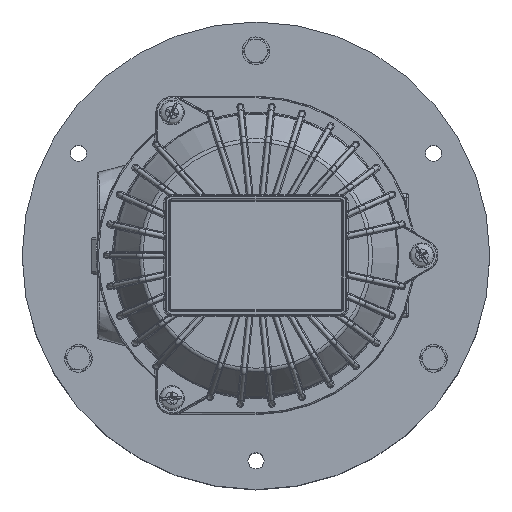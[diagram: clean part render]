
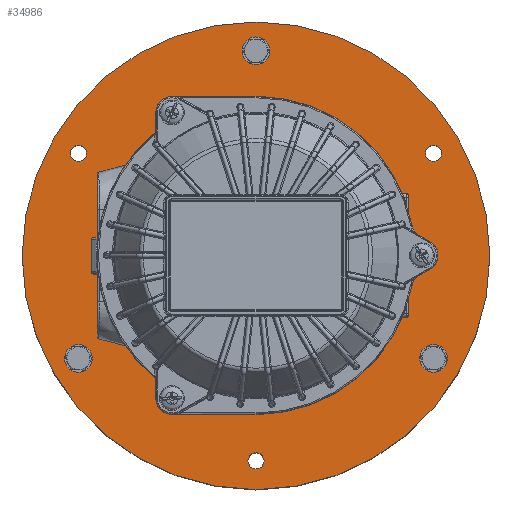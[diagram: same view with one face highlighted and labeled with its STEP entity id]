
A CAD part, top view. The second image highlights one B-rep face of the part: STEP entity #34986.
In plain terms, the highlighted planar face has unit normal (0, 0, 1).
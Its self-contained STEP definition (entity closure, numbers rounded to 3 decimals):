
#2782=FACE_BOUND('',#8609,.T.);
#2783=FACE_BOUND('',#8610,.T.);
#2784=FACE_BOUND('',#8611,.T.);
#2785=FACE_BOUND('',#8612,.T.);
#2786=FACE_BOUND('',#8613,.T.);
#2787=FACE_BOUND('',#8614,.T.);
#2788=FACE_BOUND('',#8615,.T.);
#5265=PLANE('',#37413);
#6304=FACE_OUTER_BOUND('',#8608,.T.);
#8608=EDGE_LOOP('',(#24735));
#8609=EDGE_LOOP('',(#24736));
#8610=EDGE_LOOP('',(#24737));
#8611=EDGE_LOOP('',(#24738));
#8612=EDGE_LOOP('',(#24739));
#8613=EDGE_LOOP('',(#24740));
#8614=EDGE_LOOP('',(#24741));
#8615=EDGE_LOOP('',(#24742));
#13540=CIRCLE('',#37167,6.);
#13568=CIRCLE('',#37246,6.);
#13579=CIRCLE('',#37276,6.);
#13635=CIRCLE('',#37414,101.5);
#13636=CIRCLE('',#37415,3.5);
#13637=CIRCLE('',#37416,3.5);
#13638=CIRCLE('',#37417,3.5);
#13639=CIRCLE('',#37418,31.463);
#15648=VERTEX_POINT('',#50174);
#15708=VERTEX_POINT('',#50499);
#15727=VERTEX_POINT('',#50635);
#15864=VERTEX_POINT('',#51846);
#15865=VERTEX_POINT('',#51848);
#15866=VERTEX_POINT('',#51850);
#15867=VERTEX_POINT('',#51852);
#15868=VERTEX_POINT('',#51854);
#18750=EDGE_CURVE('',#15648,#15648,#13540,.T.);
#18850=EDGE_CURVE('',#15708,#15708,#13568,.T.);
#18882=EDGE_CURVE('',#15727,#15727,#13579,.T.);
#19087=EDGE_CURVE('',#15864,#15864,#13635,.T.);
#19088=EDGE_CURVE('',#15865,#15865,#13636,.T.);
#19089=EDGE_CURVE('',#15866,#15866,#13637,.T.);
#19090=EDGE_CURVE('',#15867,#15867,#13638,.T.);
#19091=EDGE_CURVE('',#15868,#15868,#13639,.T.);
#24735=ORIENTED_EDGE('',*,*,#19087,.F.);
#24736=ORIENTED_EDGE('',*,*,#18750,.T.);
#24737=ORIENTED_EDGE('',*,*,#18850,.T.);
#24738=ORIENTED_EDGE('',*,*,#18882,.T.);
#24739=ORIENTED_EDGE('',*,*,#19088,.T.);
#24740=ORIENTED_EDGE('',*,*,#19089,.T.);
#24741=ORIENTED_EDGE('',*,*,#19090,.T.);
#24742=ORIENTED_EDGE('',*,*,#19091,.F.);
#34986=ADVANCED_FACE('',(#6304,#2782,#2783,#2784,#2785,#2786,#2787,#2788),
#5265,.F.);
#37167=AXIS2_PLACEMENT_3D('',#50175,#41089,#41090);
#37246=AXIS2_PLACEMENT_3D('',#50500,#41287,#41288);
#37276=AXIS2_PLACEMENT_3D('',#50636,#41360,#41361);
#37413=AXIS2_PLACEMENT_3D('',#51845,#41710,#41711);
#37414=AXIS2_PLACEMENT_3D('',#51847,#41712,#41713);
#37415=AXIS2_PLACEMENT_3D('',#51849,#41714,#41715);
#37416=AXIS2_PLACEMENT_3D('',#51851,#41716,#41717);
#37417=AXIS2_PLACEMENT_3D('',#51853,#41718,#41719);
#37418=AXIS2_PLACEMENT_3D('',#51855,#41720,#41721);
#41089=DIRECTION('center_axis',(0.,0.,
-1.));
#41090=DIRECTION('ref_axis',(-0.741,-0.672,0.));
#41287=DIRECTION('center_axis',(0.,0.,
-1.));
#41288=DIRECTION('ref_axis',(-0.211,0.977,0.));
#41360=DIRECTION('center_axis',(0.,0.,
-1.));
#41361=DIRECTION('ref_axis',(0.952,-0.306,0.));
#41710=DIRECTION('center_axis',(0.,0.,
-1.));
#41711=DIRECTION('ref_axis',(-1.,0.,0.));
#41712=DIRECTION('center_axis',(0.,0.,
-1.));
#41713=DIRECTION('ref_axis',(-1.,0.,0.));
#41714=DIRECTION('center_axis',(0.,0.,
-1.));
#41715=DIRECTION('ref_axis',(1.,0.,0.));
#41716=DIRECTION('center_axis',(0.,0.,
-1.));
#41717=DIRECTION('ref_axis',(1.,0.,0.));
#41718=DIRECTION('center_axis',(0.,0.,
-1.));
#41719=DIRECTION('ref_axis',(1.,0.,0.));
#41720=DIRECTION('center_axis',(0.,0.,
1.));
#41721=DIRECTION('ref_axis',(1.,0.,0.));
#50174=CARTESIAN_POINT('',(81.521,-40.47,-104.65));
#50175=CARTESIAN_POINT('Origin',(77.076,-44.5,-104.65));
#50499=CARTESIAN_POINT('',(-75.809,-50.365,-104.65));
#50500=CARTESIAN_POINT('Origin',(-77.076,-44.5,-104.65));
#50635=CARTESIAN_POINT('',(-5.713,90.834,-104.65));
#50636=CARTESIAN_POINT('Origin',(0.,89.,
-104.65));
#51845=CARTESIAN_POINT('Origin',(0.,0.,-104.65));
#51846=CARTESIAN_POINT('',(101.5,0.,-104.65));
#51847=CARTESIAN_POINT('Origin',(0.,0.,-104.65));
#51848=CARTESIAN_POINT('',(-80.576,44.5,-104.65));
#51849=CARTESIAN_POINT('Origin',(-77.076,44.5,-104.65));
#51850=CARTESIAN_POINT('',(-3.5,-89.,-104.65));
#51851=CARTESIAN_POINT('Origin',(0.,-89.,-104.65));
#51852=CARTESIAN_POINT('',(73.576,44.5,-104.65));
#51853=CARTESIAN_POINT('Origin',(77.076,44.5,-104.65));
#51854=CARTESIAN_POINT('',(-31.463,0.,-104.65));
#51855=CARTESIAN_POINT('Origin',(0.,0.,-104.65));
